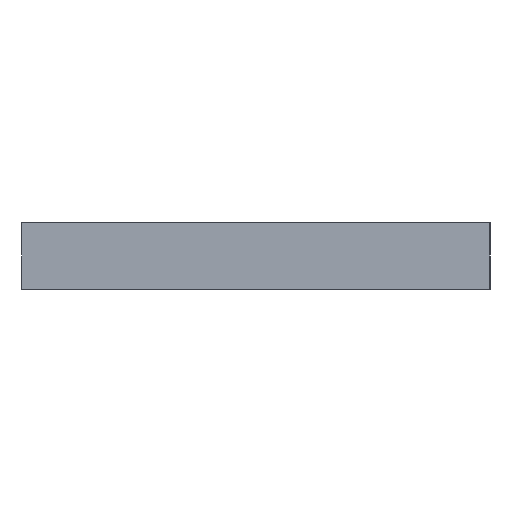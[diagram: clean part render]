
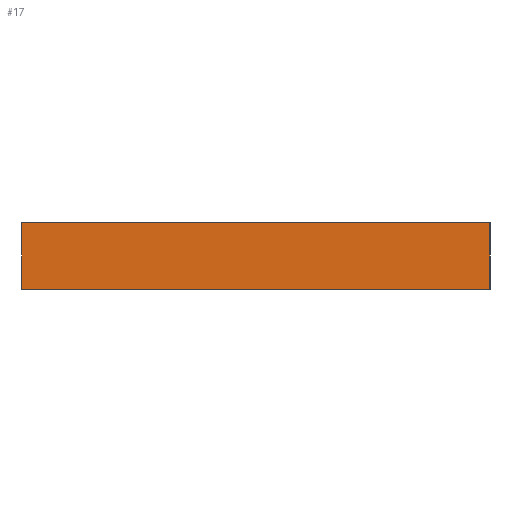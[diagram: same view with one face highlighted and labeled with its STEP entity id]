
A CAD part, left-side view. The second image highlights one B-rep face of the part: STEP entity #17.
In plain terms, the highlighted planar face has unit normal (-1, 0, 0).
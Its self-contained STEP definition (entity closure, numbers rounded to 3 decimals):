
#17 = ADVANCED_FACE('',(#18),#32,.F.);
#18 = FACE_BOUND('',#19,.F.);
#19 = EDGE_LOOP('',(#20,#55,#83,#111));
#20 = ORIENTED_EDGE('',*,*,#21,.F.);
#21 = EDGE_CURVE('',#22,#24,#26,.T.);
#22 = VERTEX_POINT('',#23);
#23 = CARTESIAN_POINT('',(-10.75,-22.02,0.515));
#24 = VERTEX_POINT('',#25);
#25 = CARTESIAN_POINT('',(-10.75,-22.02,1.515));
#26 = SURFACE_CURVE('',#27,(#31,#43),.PCURVE_S1.);
#27 = LINE('',#28,#29);
#28 = CARTESIAN_POINT('',(-10.75,-22.02,0.515));
#29 = VECTOR('',#30,1.);
#30 = DIRECTION('',(0.,0.,1.));
#31 = PCURVE('',#32,#37);
#32 = PLANE('',#33);
#33 = AXIS2_PLACEMENT_3D('',#34,#35,#36);
#34 = CARTESIAN_POINT('',(-10.75,-22.02,0.515));
#35 = DIRECTION('',(1.,0.,0.));
#36 = DIRECTION('',(0.,0.,1.));
#37 = DEFINITIONAL_REPRESENTATION('',(#38),#42);
#38 = LINE('',#39,#40);
#39 = CARTESIAN_POINT('',(0.,0.));
#40 = VECTOR('',#41,1.);
#41 = DIRECTION('',(1.,0.));
#42 = ( GEOMETRIC_REPRESENTATION_CONTEXT(2) 
PARAMETRIC_REPRESENTATION_CONTEXT() REPRESENTATION_CONTEXT('2D SPACE',''
  ) );
#43 = PCURVE('',#44,#49);
#44 = PLANE('',#45);
#45 = AXIS2_PLACEMENT_3D('',#46,#47,#48);
#46 = CARTESIAN_POINT('',(-10.75,-22.02,0.515));
#47 = DIRECTION('',(0.,1.,0.));
#48 = DIRECTION('',(0.,0.,1.));
#49 = DEFINITIONAL_REPRESENTATION('',(#50),#54);
#50 = LINE('',#51,#52);
#51 = CARTESIAN_POINT('',(0.,0.));
#52 = VECTOR('',#53,1.);
#53 = DIRECTION('',(1.,0.));
#54 = ( GEOMETRIC_REPRESENTATION_CONTEXT(2) 
PARAMETRIC_REPRESENTATION_CONTEXT() REPRESENTATION_CONTEXT('2D SPACE',''
  ) );
#55 = ORIENTED_EDGE('',*,*,#56,.T.);
#56 = EDGE_CURVE('',#22,#57,#59,.T.);
#57 = VERTEX_POINT('',#58);
#58 = CARTESIAN_POINT('',(-10.75,-15.02,0.515));
#59 = SURFACE_CURVE('',#60,(#64,#71),.PCURVE_S1.);
#60 = LINE('',#61,#62);
#61 = CARTESIAN_POINT('',(-10.75,-22.02,0.515));
#62 = VECTOR('',#63,1.);
#63 = DIRECTION('',(0.,1.,0.));
#64 = PCURVE('',#32,#65);
#65 = DEFINITIONAL_REPRESENTATION('',(#66),#70);
#66 = LINE('',#67,#68);
#67 = CARTESIAN_POINT('',(0.,0.));
#68 = VECTOR('',#69,1.);
#69 = DIRECTION('',(0.,-1.));
#70 = ( GEOMETRIC_REPRESENTATION_CONTEXT(2) 
PARAMETRIC_REPRESENTATION_CONTEXT() REPRESENTATION_CONTEXT('2D SPACE',''
  ) );
#71 = PCURVE('',#72,#77);
#72 = PLANE('',#73);
#73 = AXIS2_PLACEMENT_3D('',#74,#75,#76);
#74 = CARTESIAN_POINT('',(-10.75,-22.02,0.515));
#75 = DIRECTION('',(0.,0.,1.));
#76 = DIRECTION('',(1.,0.,0.));
#77 = DEFINITIONAL_REPRESENTATION('',(#78),#82);
#78 = LINE('',#79,#80);
#79 = CARTESIAN_POINT('',(0.,0.));
#80 = VECTOR('',#81,1.);
#81 = DIRECTION('',(0.,1.));
#82 = ( GEOMETRIC_REPRESENTATION_CONTEXT(2) 
PARAMETRIC_REPRESENTATION_CONTEXT() REPRESENTATION_CONTEXT('2D SPACE',''
  ) );
#83 = ORIENTED_EDGE('',*,*,#84,.T.);
#84 = EDGE_CURVE('',#57,#85,#87,.T.);
#85 = VERTEX_POINT('',#86);
#86 = CARTESIAN_POINT('',(-10.75,-15.02,1.515));
#87 = SURFACE_CURVE('',#88,(#92,#99),.PCURVE_S1.);
#88 = LINE('',#89,#90);
#89 = CARTESIAN_POINT('',(-10.75,-15.02,0.515));
#90 = VECTOR('',#91,1.);
#91 = DIRECTION('',(0.,0.,1.));
#92 = PCURVE('',#32,#93);
#93 = DEFINITIONAL_REPRESENTATION('',(#94),#98);
#94 = LINE('',#95,#96);
#95 = CARTESIAN_POINT('',(0.,-7.));
#96 = VECTOR('',#97,1.);
#97 = DIRECTION('',(1.,0.));
#98 = ( GEOMETRIC_REPRESENTATION_CONTEXT(2) 
PARAMETRIC_REPRESENTATION_CONTEXT() REPRESENTATION_CONTEXT('2D SPACE',''
  ) );
#99 = PCURVE('',#100,#105);
#100 = PLANE('',#101);
#101 = AXIS2_PLACEMENT_3D('',#102,#103,#104);
#102 = CARTESIAN_POINT('',(-10.75,-15.02,0.515));
#103 = DIRECTION('',(0.,1.,0.));
#104 = DIRECTION('',(0.,0.,1.));
#105 = DEFINITIONAL_REPRESENTATION('',(#106),#110);
#106 = LINE('',#107,#108);
#107 = CARTESIAN_POINT('',(0.,0.));
#108 = VECTOR('',#109,1.);
#109 = DIRECTION('',(1.,0.));
#110 = ( GEOMETRIC_REPRESENTATION_CONTEXT(2) 
PARAMETRIC_REPRESENTATION_CONTEXT() REPRESENTATION_CONTEXT('2D SPACE',''
  ) );
#111 = ORIENTED_EDGE('',*,*,#112,.F.);
#112 = EDGE_CURVE('',#24,#85,#113,.T.);
#113 = SURFACE_CURVE('',#114,(#118,#125),.PCURVE_S1.);
#114 = LINE('',#115,#116);
#115 = CARTESIAN_POINT('',(-10.75,-22.02,1.515));
#116 = VECTOR('',#117,1.);
#117 = DIRECTION('',(0.,1.,0.));
#118 = PCURVE('',#32,#119);
#119 = DEFINITIONAL_REPRESENTATION('',(#120),#124);
#120 = LINE('',#121,#122);
#121 = CARTESIAN_POINT('',(1.,0.));
#122 = VECTOR('',#123,1.);
#123 = DIRECTION('',(0.,-1.));
#124 = ( GEOMETRIC_REPRESENTATION_CONTEXT(2) 
PARAMETRIC_REPRESENTATION_CONTEXT() REPRESENTATION_CONTEXT('2D SPACE',''
  ) );
#125 = PCURVE('',#126,#131);
#126 = PLANE('',#127);
#127 = AXIS2_PLACEMENT_3D('',#128,#129,#130);
#128 = CARTESIAN_POINT('',(-10.75,-22.02,1.515));
#129 = DIRECTION('',(0.,0.,1.));
#130 = DIRECTION('',(1.,0.,0.));
#131 = DEFINITIONAL_REPRESENTATION('',(#132),#136);
#132 = LINE('',#133,#134);
#133 = CARTESIAN_POINT('',(0.,0.));
#134 = VECTOR('',#135,1.);
#135 = DIRECTION('',(0.,1.));
#136 = ( GEOMETRIC_REPRESENTATION_CONTEXT(2) 
PARAMETRIC_REPRESENTATION_CONTEXT() REPRESENTATION_CONTEXT('2D SPACE',''
  ) );
